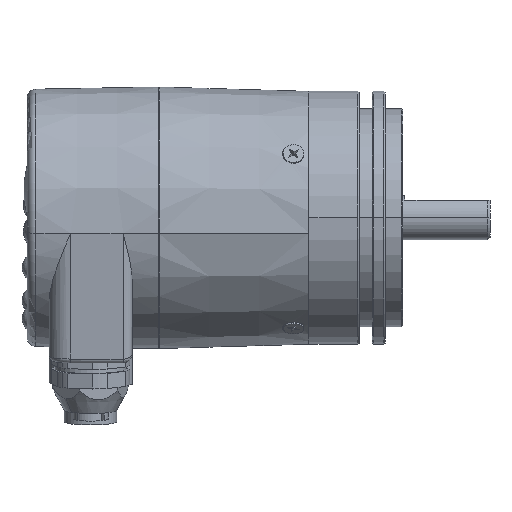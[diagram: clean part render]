
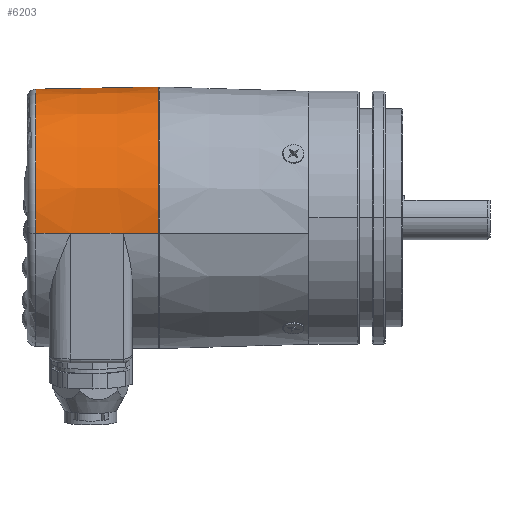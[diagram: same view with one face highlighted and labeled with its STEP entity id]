
A CAD part, top view. The second image highlights one B-rep face of the part: STEP entity #6203.
In plain terms, the highlighted conical face has half-angle 1 degrees and reference radius 30 mm.
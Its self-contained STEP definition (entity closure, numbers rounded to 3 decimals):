
#3860 = CARTESIAN_POINT ( 'NONE',  ( -35.035, 3.639, -29.637 ) ) ;
#3871 = DIRECTION ( 'NONE',  ( 1., 0.002, -0.017 ) ) ;
#3872 = VECTOR ( 'NONE', #3871, 1000. ) ;
#3873 = CARTESIAN_POINT ( 'NONE',  ( -27., 3.656, -29.776 ) ) ;
#3874 = LINE ( 'NONE', #3873, #3872 ) ;
#3881 = CARTESIAN_POINT ( 'NONE',  ( -55.035, 3.596, -29.291 ) ) ;
#3882 = DIRECTION ( 'NONE',  ( 0., -0.122, 0.993 ) ) ;
#3883 = DIRECTION ( 'NONE',  ( 1., 0., 0. ) ) ;
#3884 = CARTESIAN_POINT ( 'NONE',  ( -55.035, 0., 0. ) ) ;
#3885 = AXIS2_PLACEMENT_3D ( 'NONE', #3884, #3883, #3882 ) ;
#3886 = CIRCLE ( 'NONE', #3885, 29.511 ) ;
#3899 = CARTESIAN_POINT ( 'NONE',  ( -55.035, -3.596, 29.291 ) ) ;
#4016 = CARTESIAN_POINT ( 'NONE',  ( -47.087, 3.613, -29.428 ) ) ;
#4017 = DIRECTION ( 'NONE',  ( 1., 0.002, -0.017 ) ) ;
#4018 = VECTOR ( 'NONE', #4017, 1000. ) ;
#4022 = LINE ( 'NONE', #4063, #4018 ) ;
#4041 = DIRECTION ( 'NONE',  ( 1., 0.002, -0.017 ) ) ;
#4042 = VECTOR ( 'NONE', #4041, 1000. ) ;
#4043 = CARTESIAN_POINT ( 'NONE',  ( -27., 3.656, -29.776 ) ) ;
#4044 = LINE ( 'NONE', #4043, #4042 ) ;
#4063 = CARTESIAN_POINT ( 'NONE',  ( -27.523, 3.655, -29.767 ) ) ;
#4610 = DIRECTION ( 'NONE',  ( 1., -0.002, 0.017 ) ) ;
#4614 = DIRECTION ( 'NONE',  ( 1., 0., 0. ) ) ;
#4615 = CARTESIAN_POINT ( 'NONE',  ( -27., 0., 0. ) ) ;
#4616 = AXIS2_PLACEMENT_3D ( 'NONE', #4615, #4614, #4683 ) ;
#4617 = CIRCLE ( 'NONE', #4616, 30. ) ;
#4619 = CARTESIAN_POINT ( 'NONE',  ( -27., -3.656, 29.776 ) ) ;
#4622 = VECTOR ( 'NONE', #4610, 1000. ) ;
#4623 = CARTESIAN_POINT ( 'NONE',  ( -27., -3.656, 29.776 ) ) ;
#4624 = LINE ( 'NONE', #4623, #4622 ) ;
#4671 = CARTESIAN_POINT ( 'NONE',  ( -35.035, -3.639, 29.637 ) ) ;
#4672 = CARTESIAN_POINT ( 'NONE',  ( -27., 3.656, -29.776 ) ) ;
#4683 = DIRECTION ( 'NONE',  ( 0., 0.122, -0.993 ) ) ;
#4885 = LINE ( 'NONE', #4887, #4886 ) ;
#4886 = VECTOR ( 'NONE', #4920, 1000. ) ;
#4887 = CARTESIAN_POINT ( 'NONE',  ( -27., -3.656, 29.776 ) ) ;
#4891 = DIRECTION ( 'NONE',  ( 1., -0.002, 0.017 ) ) ;
#4892 = VECTOR ( 'NONE', #4891, 1000. ) ;
#4893 = CARTESIAN_POINT ( 'NONE',  ( -27.523, -3.655, 29.767 ) ) ;
#4894 = LINE ( 'NONE', #4893, #4892 ) ;
#4918 = CARTESIAN_POINT ( 'NONE',  ( -47.087, -3.613, 29.428 ) ) ;
#4920 = DIRECTION ( 'NONE',  ( 1., -0.002, 0.017 ) ) ;
#5000 = CONICAL_SURFACE ( 'NONE', #5030, 30., 0.017 ) ;
#5008 = DIRECTION ( 'NONE',  ( 0., 0.122, -0.993 ) ) ;
#5009 = DIRECTION ( 'NONE',  ( 1., 0., 0. ) ) ;
#5010 = CARTESIAN_POINT ( 'NONE',  ( -27., 0., 0. ) ) ;
#5030 = AXIS2_PLACEMENT_3D ( 'NONE', #5010, #5009, #5008 ) ;
#5094 = FACE_OUTER_BOUND ( 'NONE', #6204, .T. ) ;
#5833 = ORIENTED_EDGE ( 'NONE', *, *, #5834, .F. ) ;
#5834 = EDGE_CURVE ( 'NONE', #5835, #6027, #3874, .T. ) ;
#5835 = VERTEX_POINT ( 'NONE', #3860 ) ;
#5836 = ORIENTED_EDGE ( 'NONE', *, *, #5859, .F. ) ;
#5839 = EDGE_CURVE ( 'NONE', #5841, #5842, #3886, .T. ) ;
#5841 = VERTEX_POINT ( 'NONE', #3881 ) ;
#5842 = VERTEX_POINT ( 'NONE', #3899 ) ;
#5859 = EDGE_CURVE ( 'NONE', #5860, #5835, #4022, .T. ) ;
#5860 = VERTEX_POINT ( 'NONE', #4016 ) ;
#5861 = ORIENTED_EDGE ( 'NONE', *, *, #5862, .F. ) ;
#5862 = EDGE_CURVE ( 'NONE', #5841, #5860, #4044, .T. ) ;
#6027 = VERTEX_POINT ( 'NONE', #4672 ) ;
#6028 = VERTEX_POINT ( 'NONE', #4671 ) ;
#6030 = ORIENTED_EDGE ( 'NONE', *, *, #6031, .T. ) ;
#6031 = EDGE_CURVE ( 'NONE', #6028, #6048, #4624, .T. ) ;
#6048 = VERTEX_POINT ( 'NONE', #4619 ) ;
#6049 = ORIENTED_EDGE ( 'NONE', *, *, #6050, .F. ) ;
#6050 = EDGE_CURVE ( 'NONE', #6027, #6048, #4617, .T. ) ;
#6089 = ORIENTED_EDGE ( 'NONE', *, *, #6129, .T. ) ;
#6129 = EDGE_CURVE ( 'NONE', #5842, #6130, #4885, .T. ) ;
#6130 = VERTEX_POINT ( 'NONE', #4918 ) ;
#6131 = ORIENTED_EDGE ( 'NONE', *, *, #6134, .T. ) ;
#6134 = EDGE_CURVE ( 'NONE', #6130, #6028, #4894, .T. ) ;
#6203 = ADVANCED_FACE ( 'NONE', ( #5094 ), #5000, .T. ) ;
#6204 = EDGE_LOOP ( 'NONE', ( #6205, #6089, #6131, #6030, #6049, #5833, #5836, #5861 ) ) ;
#6205 = ORIENTED_EDGE ( 'NONE', *, *, #5839, .T. ) ;
